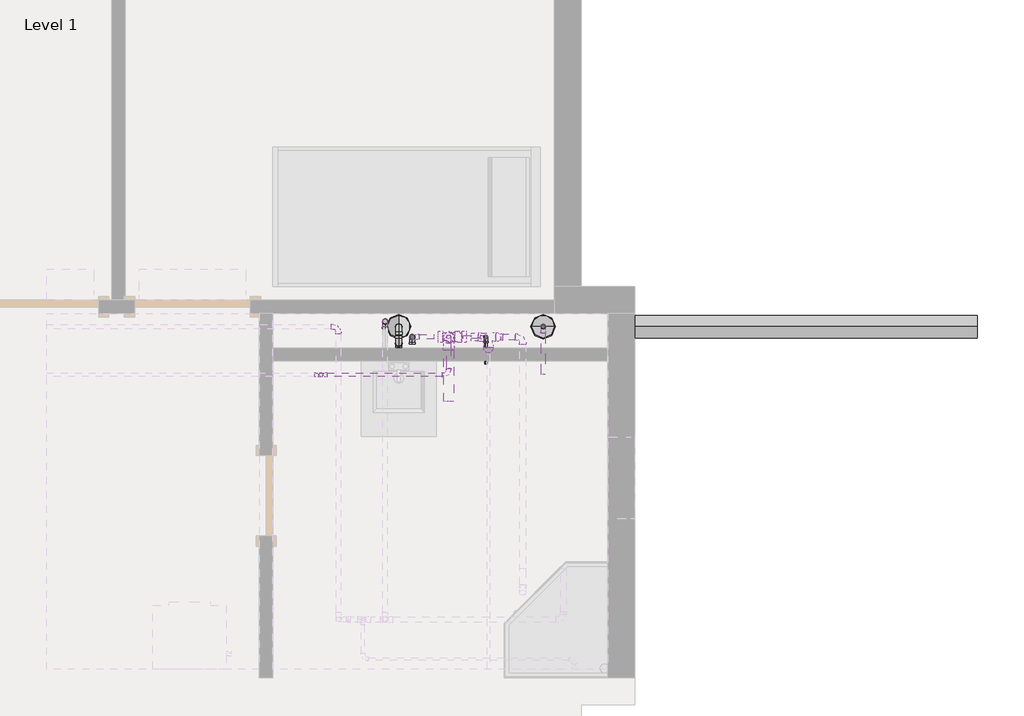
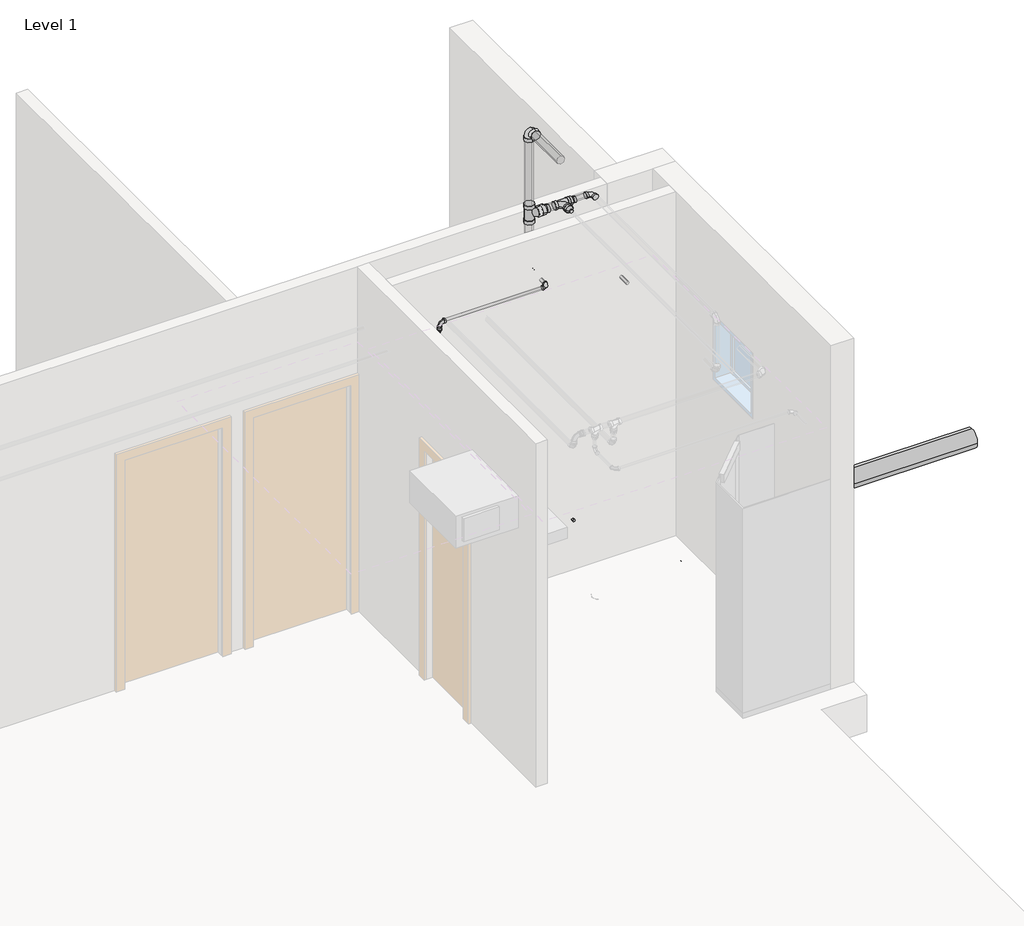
# One storey, part 5 of 5: 36 pipe fittings, 27 pipe segments.
"""IFC4 building model written with IfcOpenShell, lengths in millimetres."""

from ifc_helpers import new_model, si_unit, point, frame, frame_2d, origin, place, context, project, spatial, circle_curve, trimmed, segment, composite_curve, outline, extrude, transform, mapped, element, save
from components import m_bend_pvc_sch_40_dwv_standard_48d77e49, m_bend_pvc_sch_40_dwv_standard_b153bf5a, m_bend_pvc_sch_40_dwv_standard_42e46e6b, m_bend_pvc_sch_40_dwv_standard_be9000f5, m_bend_pvc_sch_40_dwv_standard_1fdc8943, m_cross_generic_standard_eee3fceb, m_reducer_pvc_sch_40_dwv_standard_1f0c87c7, m_reducer_pvc_sch_40_dwv_standard_bf74e410, m_reducer_pvc_sch_40_dwv_standard_9ac772d5, m_reducer_pvc_sch_40_dwv_standard_4bae48e9, m_reducer_pvc_sch_40_dwv_standard_7f1ca4eb, m_reducer_pvc_sch_40_dwv_standard_e16815b3, m_reducer_pvc_sch_40_dwv_standard_84eef19e, m_reducer_pvc_sch_40_dwv_standard_95f1beeb, m_reducer_pvc_sch_40_dwv_standard_ec3ee1f1, m_reducer_pvc_sch_40_dwv_standard_7a4573f1, m_reducer_pvc_sch_40_dwv_standard_9cc5e542, m_tee_sanitary_pvc_sch_40_dwv_standard_f4612a07, m_tee_sanitary_pvc_sch_40_dwv_standard_2f7d5431, m_tee_sanitary_pvc_sch_40_dwv_standard_c1a820f3, m_tee_sanitary_pvc_sch_40_dwv_standard_5d736629

model = new_model("IFC4")

# Units and contexts
model_context = context("Model", 3, world=origin())
ifc_project = project(units=[si_unit("LENGTHUNIT", "METRE", prefix="MILLI")], contexts=[model_context])

# Site, building, storey
site = spatial("IfcSite", under=ifc_project)
building = spatial("IfcBuilding", under=site)
storey = spatial("IfcBuildingStorey", under=building, Name="Level 1", Elevation=0.0)

# Pipe fittings
placement = place(None, origin())
m_bend_pvc_sch_40_dwv_standard_shape = m_bend_pvc_sch_40_dwv_standard_48d77e49(model_context)
element("IfcPipeFitting", 1, ObjectType="M_Bend - PVC - Sch 40 - DWV : Standard", at=placement, inside=storey, context=model_context, shape_type="MappedRepresentation", body=[
    mapped(m_bend_pvc_sch_40_dwv_standard_shape, transform((-8198.1623896, 568.6925672, 3300.0), x_axis=(0.0, 1.0, 0.0), y_axis=(-1.0, 0.0, 0.0), z_axis=(0.0, 0.0, 1.0))),
])
element("IfcPipeFitting", 2, ObjectType="M_Bend - PVC - Sch 40 - DWV : Standard", at=placement, inside=storey, context=model_context, shape_type="MappedRepresentation", body=[
    mapped(m_bend_pvc_sch_40_dwv_standard_shape, transform((-9123.7942941, 260.9749846, 480.2043266), x_axis=(0.0, 0.0, -1.0), y_axis=(0.0, 1.0, 0.0), z_axis=(1.0, 0.0, 0.0))),
])
element("IfcPipeFitting", 3, ObjectType="M_Bend - PVC - Sch 40 - DWV : Standard", at=placement, inside=storey, context=model_context, shape_type="MappedRepresentation", body=[
    mapped(m_bend_pvc_sch_40_dwv_standard_shape, transform((-9123.7942941, 520.9749846, 480.2043266), x_axis=(0.0, 1.0, 0.0), y_axis=(0.0, 0.0, 1.0), z_axis=(1.0, 0.0, 0.0))),
])
element("IfcPipeFitting", 4, ObjectType="M_Bend - PVC - Sch 40 - DWV : Standard", at=placement, inside=storey, context=model_context, shape_type="MappedRepresentation", body=[
    mapped(m_bend_pvc_sch_40_dwv_standard_shape, transform((-9123.7942941, 520.9749846, 676.629035), x_axis=(0.0, 0.0, 1.0), y_axis=(0.0, 1.0, 0.0), z_axis=(-1.0, 0.0, 0.0))),
])
element("IfcPipeFitting", 5, ObjectType="M_Bend - PVC - Sch 40 - DWV : Standard", at=placement, inside=storey, context=model_context, shape_type="MappedRepresentation", body=[
    mapped(m_bend_pvc_sch_40_dwv_standard_shape, transform((-9123.7942941, 645.9722675, 676.629035), x_axis=(0.0, 1.0, 0.0), y_axis=(0.0, 0.0, -1.0), z_axis=(-1.0, 0.0, 0.0))),
])
m_bend_pvc_sch_40_dwv_standard_2_shape = m_bend_pvc_sch_40_dwv_standard_b153bf5a(model_context)
element("IfcPipeFitting", 6, ObjectType="M_Bend - PVC - Sch 40 - DWV : Standard", at=placement, inside=storey, context=model_context, shape_type="MappedRepresentation", body=[
    mapped(m_bend_pvc_sch_40_dwv_standard_2_shape, transform((-9225.3942941, 684.5675672, 814.2), x_axis=(0.0, 1.0, 0.0), y_axis=(0.0, 0.0, 1.0), z_axis=(1.0, 0.0, 0.0))),
])
element("IfcPipeFitting", 7, ObjectType="M_Bend - PVC - Sch 40 - DWV : Standard", at=placement, inside=storey, context=model_context, shape_type="MappedRepresentation", body=[
    mapped(m_bend_pvc_sch_40_dwv_standard_2_shape, transform((-9022.1942941, 568.6925672, 814.2), x_axis=(0.0, 1.0, 0.0), y_axis=(0.0, 0.0, 1.0), z_axis=(1.0, 0.0, 0.0))),
])
element("IfcPipeFitting", 8, ObjectType="M_Bend - PVC - Sch 40 - DWV : Standard", at=placement, inside=storey, context=model_context, shape_type="MappedRepresentation", body=[
    mapped(m_bend_pvc_sch_40_dwv_standard_2_shape, transform((-9225.3942941, 684.5675672, 2600.0), x_axis=(0.0, 0.0, 1.0), y_axis=(0.0, -1.0, 0.0), z_axis=(1.0, 0.0, 0.0))),
])
element("IfcPipeFitting", 9, ObjectType="M_Bend - PVC - Sch 40 - DWV : Standard", at=placement, inside=storey, context=model_context, shape_type="MappedRepresentation", body=[
    mapped(m_bend_pvc_sch_40_dwv_standard_2_shape, transform((-9572.9123897, 644.5675672, 2690.0), x_axis=(0.0, 1.0, 0.0), y_axis=(-0.9999999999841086, 0.0, 5.637633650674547e-06), z_axis=(5.637633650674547e-06, 0.0, 0.9999999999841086))),
])
element("IfcPipeFitting", 10, ObjectType="M_Bend - PVC - Sch 40 - DWV : Standard", at=placement, inside=storey, context=model_context, shape_type="MappedRepresentation", body=[
    mapped(m_bend_pvc_sch_40_dwv_standard_2_shape, transform((-9022.1942941, 568.6925672, 3000.0), x_axis=(0.0, 0.0, 1.0), y_axis=(1.0, 0.0, 0.0), z_axis=(0.0, 1.0, 0.0))),
])
m_bend_pvc_sch_40_dwv_standard_3_shape = m_bend_pvc_sch_40_dwv_standard_42e46e6b(model_context)
element("IfcPipeFitting", 11, ObjectType="M_Bend - PVC - Sch 40 - DWV : Standard", at=placement, inside=storey, context=model_context, shape_type="MappedRepresentation", body=[
    mapped(m_bend_pvc_sch_40_dwv_standard_3_shape, transform((-8472.9655423, 568.6925672, 469.9432082), x_axis=(0.0, 1.0, 0.0), y_axis=(0.0, 0.0, 1.0), z_axis=(1.0, 0.0, 0.0))),
])
element("IfcPipeFitting", 12, ObjectType="M_Bend - PVC - Sch 40 - DWV : Standard", at=placement, inside=storey, context=model_context, shape_type="MappedRepresentation", body=[
    mapped(m_bend_pvc_sch_40_dwv_standard_3_shape, transform((-8472.9655423, 568.6925672, 3000.0), x_axis=(0.0, 0.0, 1.0), y_axis=(-1.0, 0.0, 0.0), z_axis=(0.0, -1.0, 0.0))),
])
m_bend_pvc_sch_40_dwv_standard_4_shape = m_bend_pvc_sch_40_dwv_standard_be9000f5(model_context)
element("IfcPipeFitting", 13, ObjectType="M_Bend - PVC - Sch 40 - DWV : Standard", at=placement, inside=storey, context=model_context, shape_type="MappedRepresentation", body=[
    mapped(m_bend_pvc_sch_40_dwv_standard_4_shape, transform((-8045.7623896, 645.9722675, 2580.0), x_axis=(0.0, 0.0, 1.0), y_axis=(0.0, -1.0, 0.0), z_axis=(1.0, 0.0, 0.0))),
])
element("IfcPipeFitting", 14, ObjectType="M_Bend - PVC - Sch 40 - DWV : Standard", at=placement, inside=storey, context=model_context, shape_type="MappedRepresentation", body=[
    mapped(m_bend_pvc_sch_40_dwv_standard_4_shape, transform((-8750.7891067, 568.6925672, 2800.0), x_axis=(0.0, 1.0, 0.0), y_axis=(0.0, 0.0, 1.0), z_axis=(1.0, 0.0, 0.0))),
])
element("IfcPipeFitting", 15, ObjectType="M_Bend - PVC - Sch 40 - DWV : Standard", at=placement, inside=storey, context=model_context, shape_type="MappedRepresentation", body=[
    mapped(m_bend_pvc_sch_40_dwv_standard_4_shape, transform((-9704.3444209, 286.2683858, 2690.0), x_axis=(1.0, 0.0, 0.0), y_axis=(0.0, 0.0, 1.0), z_axis=(0.0, -1.0, 0.0))),
])
element("IfcPipeFitting", 16, ObjectType="M_Bend - PVC - Sch 40 - DWV : Standard", at=placement, inside=storey, context=model_context, shape_type="MappedRepresentation", body=[
    mapped(m_bend_pvc_sch_40_dwv_standard_4_shape, transform((-8750.7891067, 286.2683858, 2800.0), x_axis=(1.0, 0.0, 0.0), y_axis=(0.0, 1.0, 0.0), z_axis=(0.0, 0.0, 1.0))),
])
element("IfcPipeFitting", 17, ObjectType="M_Bend - PVC - Sch 40 - DWV : Standard", at=placement, inside=storey, context=model_context, shape_type="MappedRepresentation", body=[
    mapped(m_bend_pvc_sch_40_dwv_standard_4_shape, transform((-9704.3444209, 286.2683858, 2800.0), x_axis=(0.0, 0.0, 1.0), y_axis=(1.0, 0.0, 0.0), z_axis=(0.0, 1.0, 0.0))),
])
m_bend_pvc_sch_40_dwv_standard_5_shape = m_bend_pvc_sch_40_dwv_standard_1fdc8943(model_context)
element("IfcPipeFitting", 18, ObjectType="M_Bend - PVC - Sch 40 - DWV : Standard", at=placement, inside=storey, context=model_context, shape_type="MappedRepresentation", body=[
    mapped(m_bend_pvc_sch_40_dwv_standard_5_shape, transform((-8750.7891067, 568.6925672, 4093.3), x_axis=(0.0, 1.0, 0.0), y_axis=(0.0, 0.0, -1.0), z_axis=(-1.0, 0.0, 0.0))),
])
m_cross_generic_standard_shape = m_cross_generic_standard_eee3fceb(model_context)
element("IfcPipeFitting", 19, ObjectType="M_Cross - Generic : Standard", at=placement, inside=storey, context=model_context, shape_type="MappedRepresentation", body=[
    mapped(m_cross_generic_standard_shape, transform((-8750.7891067, 568.6925672, 3000.0), x_axis=(0.0, 0.0, 1.0), y_axis=(-1.0, 0.0, 0.0), z_axis=(0.0, -1.0, 0.0))),
])
m_reducer_pvc_sch_40_dwv_standard_shape = m_reducer_pvc_sch_40_dwv_standard_1f0c87c7(model_context)
element("IfcPipeFitting", 20, ObjectType="M_Reducer - PVC - Sch 40 - DWV : Standard", at=placement, inside=storey, context=model_context, shape_type="MappedRepresentation", body=[
    mapped(m_reducer_pvc_sch_40_dwv_standard_shape, transform((-8472.9123896, 442.7722675, -205.0), x_axis=(0.0, -1.0, 0.0), y_axis=(1.0, 0.0, 0.0), z_axis=(0.0, 0.0, 1.0))),
])
m_reducer_pvc_sch_40_dwv_standard_2_shape = m_reducer_pvc_sch_40_dwv_standard_bf74e410(model_context)
element("IfcPipeFitting", 21, ObjectType="M_Reducer - PVC - Sch 40 - DWV : Standard", at=placement, inside=storey, context=model_context, shape_type="MappedRepresentation", body=[
    mapped(m_reducer_pvc_sch_40_dwv_standard_2_shape, transform((-9123.7942941, 645.9722675, 103.3624725), x_axis=(0.0, 0.0, 1.0), y_axis=(0.0, -1.0, 0.0), z_axis=(1.0, 0.0, 0.0))),
])
m_reducer_pvc_sch_40_dwv_standard_3_shape = m_reducer_pvc_sch_40_dwv_standard_9ac772d5(model_context)
element("IfcPipeFitting", 22, ObjectType="M_Reducer - PVC - Sch 40 - DWV : Standard", at=placement, inside=storey, context=model_context, shape_type="MappedRepresentation", body=[
    mapped(m_reducer_pvc_sch_40_dwv_standard_3_shape, transform((-8045.7623896, 645.9722675, -2.1497587), x_axis=(0.0, 0.0, 1.0), y_axis=(1.0, 0.0, 0.0), z_axis=(0.0, 1.0, 0.0))),
])
m_reducer_pvc_sch_40_dwv_standard_4_shape = m_reducer_pvc_sch_40_dwv_standard_4bae48e9(model_context)
element("IfcPipeFitting", 23, ObjectType="M_Reducer - PVC - Sch 40 - DWV : Standard", at=placement, inside=storey, context=model_context, shape_type="MappedRepresentation", body=[
    mapped(m_reducer_pvc_sch_40_dwv_standard_4_shape, transform((-7589.6865833, 442.7722675, -206.1051643), x_axis=(0.0, -1.0, 0.0), y_axis=(0.9999989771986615, 0.0, -0.0014302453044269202), z_axis=(0.0014302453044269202, 0.0, 0.9999989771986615))),
])
m_reducer_pvc_sch_40_dwv_standard_5_shape = m_reducer_pvc_sch_40_dwv_standard_7f1ca4eb(model_context)
element("IfcPipeFitting", 24, ObjectType="M_Reducer - PVC - Sch 40 - DWV : Standard", at=placement, inside=storey, context=model_context, shape_type="MappedRepresentation", body=[
    mapped(m_reducer_pvc_sch_40_dwv_standard_5_shape, transform((-8399.7233271, 568.6925672, 3300.0), x_axis=(1.0, 0.0, 0.0), y_axis=(0.0, 1.0, 0.0), z_axis=(0.0, 0.0, 1.0))),
])
m_reducer_pvc_sch_40_dwv_standard_6_shape = m_reducer_pvc_sch_40_dwv_standard_e16815b3(model_context)
element("IfcPipeFitting", 25, ObjectType="M_Reducer - PVC - Sch 40 - DWV : Standard", at=placement, inside=storey, context=model_context, shape_type="MappedRepresentation", body=[
    mapped(m_reducer_pvc_sch_40_dwv_standard_6_shape, transform((-8453.6983271, 490.8923672, 3300.0), x_axis=(0.0, -1.0, 0.0), y_axis=(1.0, 0.0, 0.0), z_axis=(0.0, 0.0, 1.0))),
])
m_reducer_pvc_sch_40_dwv_standard_7_shape = m_reducer_pvc_sch_40_dwv_standard_84eef19e(model_context)
element("IfcPipeFitting", 26, ObjectType="M_Reducer - PVC - Sch 40 - DWV : Standard", at=placement, inside=storey, context=model_context, shape_type="MappedRepresentation", body=[
    mapped(m_reducer_pvc_sch_40_dwv_standard_7_shape, transform((-8651.7750442, 568.6925672, 3300.0), x_axis=(1.0, 0.0, 0.0), y_axis=(0.0, 1.0, 0.0), z_axis=(0.0, 0.0, 1.0))),
])
m_reducer_pvc_sch_40_dwv_standard_8_shape = m_reducer_pvc_sch_40_dwv_standard_95f1beeb(model_context)
element("IfcPipeFitting", 27, ObjectType="M_Reducer - PVC - Sch 40 - DWV : Standard", at=placement, inside=storey, context=model_context, shape_type="MappedRepresentation", body=[
    mapped(m_reducer_pvc_sch_40_dwv_standard_8_shape, transform((-8750.7891067, 568.6925672, 2953.9625), x_axis=(0.0, 0.0, -1.0), y_axis=(0.0, -1.0, 0.0), z_axis=(-1.0, 0.0, 0.0))),
])
m_reducer_pvc_sch_40_dwv_standard_9_shape = m_reducer_pvc_sch_40_dwv_standard_ec3ee1f1(model_context)
element("IfcPipeFitting", 28, ObjectType="M_Reducer - PVC - Sch 40 - DWV : Standard", at=placement, inside=storey, context=model_context, shape_type="MappedRepresentation", body=[
    mapped(m_reducer_pvc_sch_40_dwv_standard_9_shape, transform((-8704.7516067, 568.6925672, 3000.0), x_axis=(1.0, 0.0, 0.0), y_axis=(0.0, 1.0, 0.0), z_axis=(0.0, 0.0, 1.0))),
])
m_reducer_pvc_sch_40_dwv_standard_10_shape = m_reducer_pvc_sch_40_dwv_standard_7a4573f1(model_context)
element("IfcPipeFitting", 29, ObjectType="M_Reducer - PVC - Sch 40 - DWV : Standard", at=placement, inside=storey, context=model_context, shape_type="MappedRepresentation", body=[
    mapped(m_reducer_pvc_sch_40_dwv_standard_10_shape, transform((-8796.8266067, 568.6925672, 3000.0), x_axis=(-1.0, 0.0, 0.0), y_axis=(0.0, -1.0, 0.0), z_axis=(0.0, 0.0, 1.0))),
])
m_reducer_pvc_sch_40_dwv_standard_11_shape = m_reducer_pvc_sch_40_dwv_standard_9cc5e542(model_context)
element("IfcPipeFitting", 30, ObjectType="M_Reducer - PVC - Sch 40 - DWV : Standard", at=placement, inside=storey, context=model_context, shape_type="MappedRepresentation", body=[
    mapped(m_reducer_pvc_sch_40_dwv_standard_11_shape, transform((-9288.8942941, 645.9722675, -205.1886237), x_axis=(-1.0, 0.0, 0.0), y_axis=(0.0, -1.0, 0.0), z_axis=(0.0, 0.0, 1.0))),
])
m_tee_sanitary_pvc_sch_40_dwv_standard_shape = m_tee_sanitary_pvc_sch_40_dwv_standard_f4612a07(model_context)
element("IfcPipeFitting", 31, ObjectType="M_Tee Sanitary - PVC - Sch 40 - DWV : Standard", at=placement, inside=storey, context=model_context, shape_type="MappedRepresentation", body=[
    mapped(m_tee_sanitary_pvc_sch_40_dwv_standard_shape, transform((-8472.9125241, 645.9722675, -205.1886237), x_axis=(-1.0, 0.0, 0.0), y_axis=(0.0, 1.0, 0.0), z_axis=(0.0, 0.0, -1.0))),
])
element("IfcPipeFitting", 32, ObjectType="M_Tee Sanitary - PVC - Sch 40 - DWV : Standard", at=placement, inside=storey, context=model_context, shape_type="MappedRepresentation", body=[
    mapped(m_tee_sanitary_pvc_sch_40_dwv_standard_shape, transform((-7589.6865833, 645.9722675, -206.1051643), x_axis=(-0.9999989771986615, 0.0, 0.0014302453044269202), y_axis=(0.0, 1.0, 0.0), z_axis=(-0.0014302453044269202, 0.0, -0.9999989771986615))),
])
element("IfcPipeFitting", 33, ObjectType="M_Tee Sanitary - PVC - Sch 40 - DWV : Standard", at=placement, inside=storey, context=model_context, shape_type="MappedRepresentation", body=[
    mapped(m_tee_sanitary_pvc_sch_40_dwv_standard_shape, transform((-9123.7942941, 645.9722675, -205.1886237), x_axis=(-1.0, 0.0, 0.0), y_axis=(0.0, 0.0, -1.0), z_axis=(0.0, -1.0, 0.0))),
])
m_tee_sanitary_pvc_sch_40_dwv_standard_2_shape = m_tee_sanitary_pvc_sch_40_dwv_standard_2f7d5431(model_context)
element("IfcPipeFitting", 34, ObjectType="M_Tee Sanitary - PVC - Sch 40 - DWV : Standard", at=placement, inside=storey, context=model_context, shape_type="MappedRepresentation", body=[
    mapped(m_tee_sanitary_pvc_sch_40_dwv_standard_2_shape, transform((-8750.7891067, 568.6925672, 3300.0), x_axis=(0.0, 0.0, -1.0), y_axis=(-1.0, 0.0, 0.0), z_axis=(0.0, 1.0, 0.0))),
])
m_tee_sanitary_pvc_sch_40_dwv_standard_3_shape = m_tee_sanitary_pvc_sch_40_dwv_standard_c1a820f3(model_context)
element("IfcPipeFitting", 35, ObjectType="M_Tee Sanitary - PVC - Sch 40 - DWV : Standard", at=placement, inside=storey, context=model_context, shape_type="MappedRepresentation", body=[
    mapped(m_tee_sanitary_pvc_sch_40_dwv_standard_3_shape, transform((-8045.7625241, 645.9722675, -205.4397023), x_axis=(-0.9999988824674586, 0.0, 0.0014950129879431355), y_axis=(-0.0014950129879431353, 0.0, -0.9999988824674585), z_axis=(0.0, -0.9999999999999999, 0.0))),
])
m_tee_sanitary_pvc_sch_40_dwv_standard_4_shape = m_tee_sanitary_pvc_sch_40_dwv_standard_5d736629(model_context)
element("IfcPipeFitting", 36, ObjectType="M_Tee Sanitary - PVC - Sch 40 - DWV : Standard", at=placement, inside=storey, context=model_context, shape_type="MappedRepresentation", body=[
    mapped(m_tee_sanitary_pvc_sch_40_dwv_standard_4_shape, transform((-8453.6983271, 568.6925672, 3300.0), x_axis=(1.0, 0.0, 0.0), y_axis=(0.0, 1.0, 0.0), z_axis=(0.0, 0.0, 1.0))),
])

# Pipe segments
element("IfcPipeSegment", 37, ObjectType="PVC - DWV", at=placement, inside=storey, context=model_context, shape_type="SweptSolid", body=[
    extrude(outline(composite_curve([segment(trimmed(circle_curve(frame_2d((-9022.1942941, 568.6925672)), 16.7005), [point((-9038.8947941, 568.6925672))], [point((-9022.1942941, 585.3930672))], False, "CARTESIAN"), True, "CONTINUOUS"), segment(trimmed(circle_curve(frame_2d((-9022.1942941, 568.6925672)), 16.7005), [point((-9022.1942941, 585.3930672))], [point((-9005.4937941, 568.6925672))], False, "CARTESIAN"), True, "CONTINUOUS"), segment(trimmed(circle_curve(frame_2d((-9022.1942941, 568.6925672)), 16.7005), [point((-9005.4937941, 568.6925672))], [point((-9022.1942941, 551.9920672))], False, "CARTESIAN"), True, "CONTINUOUS"), segment(trimmed(circle_curve(frame_2d((-9022.1942941, 568.6925672)), 16.7005), [point((-9022.1942941, 551.9920672))], [point((-9038.8947941, 568.6925672))], False, "CARTESIAN"), True, "CONTINUOUS")], self_intersect=False)), frame((0.0, 0.0, 866.8140625), z_axis=(0.0, 0.0, 1.0), x_axis=(1.0, 0.0, 0.0)), (0.0, 0.0, 1.0), 2080.571875),
])
element("IfcPipeSegment", 38, ObjectType="PVC - DWV", at=placement, inside=storey, context=model_context, shape_type="SweptSolid", body=[
    extrude(outline(composite_curve([segment(trimmed(circle_curve(frame_2d((469.9432082, -8472.9655423)), 10.668), [point((469.9432082, -8462.2975423))], [point((480.6112082, -8472.9655423))], False, "CARTESIAN"), True, "CONTINUOUS"), segment(trimmed(circle_curve(frame_2d((469.9432082, -8472.9655423)), 10.668), [point((480.6112082, -8472.9655423))], [point((469.9432082, -8483.6335423))], False, "CARTESIAN"), True, "CONTINUOUS"), segment(trimmed(circle_curve(frame_2d((469.9432082, -8472.9655423)), 10.668), [point((469.9432082, -8483.6335423))], [point((459.2752082, -8472.9655423))], False, "CARTESIAN"), True, "CONTINUOUS"), segment(trimmed(circle_curve(frame_2d((469.9432082, -8472.9655423)), 10.668), [point((459.2752082, -8472.9655423))], [point((469.9432082, -8462.2975423))], False, "CARTESIAN"), True, "CONTINUOUS")], self_intersect=False)), frame((0.0, 368.6925672, 0.0), z_axis=(0.0, 1.0, 0.0), x_axis=(0.0, 0.0, 1.0)), (0.0, 0.0, 1.0), 158.9859375),
])
element("IfcPipeSegment", 39, ObjectType="PVC - DWV", at=placement, inside=storey, context=model_context, shape_type="SweptSolid", body=[
    extrude(outline(composite_curve([segment(trimmed(circle_curve(frame_2d((-8472.9655423, 568.6925672)), 10.668), [point((-8483.6335423, 568.6925672))], [point((-8472.9655423, 579.3605672))], False, "CARTESIAN"), True, "CONTINUOUS"), segment(trimmed(circle_curve(frame_2d((-8472.9655423, 568.6925672)), 10.668), [point((-8472.9655423, 579.3605672))], [point((-8462.2975423, 568.6925672))], False, "CARTESIAN"), True, "CONTINUOUS"), segment(trimmed(circle_curve(frame_2d((-8472.9655423, 568.6925672)), 10.668), [point((-8462.2975423, 568.6925672))], [point((-8472.9655423, 558.0245672))], False, "CARTESIAN"), True, "CONTINUOUS"), segment(trimmed(circle_curve(frame_2d((-8472.9655423, 568.6925672)), 10.668), [point((-8472.9655423, 558.0245672))], [point((-8483.6335423, 568.6925672))], False, "CARTESIAN"), True, "CONTINUOUS")], self_intersect=False)), frame((0.0, 0.0, 510.9572707), z_axis=(0.0, 0.0, 1.0), x_axis=(1.0, 0.0, 0.0)), (0.0, 0.0, 1.0), 2448.0286668),
])
element("IfcPipeSegment", 40, ObjectType="PVC - DWV", at=placement, inside=storey, context=model_context, shape_type="SweptSolid", body=[
    extrude(outline(composite_curve([segment(trimmed(circle_curve(frame_2d((568.6925672, 3000.0)), 10.668), [point((579.3605672, 3000.0))], [point((568.6925672, 2989.332))], False, "CARTESIAN"), True, "CONTINUOUS"), segment(trimmed(circle_curve(frame_2d((568.6925672, 3000.0)), 10.668), [point((568.6925672, 2989.332))], [point((558.0245672, 3000.0))], False, "CARTESIAN"), True, "CONTINUOUS"), segment(trimmed(circle_curve(frame_2d((568.6925672, 3000.0)), 10.668), [point((558.0245672, 3000.0))], [point((568.6925672, 3010.668))], False, "CARTESIAN"), True, "CONTINUOUS"), segment(trimmed(circle_curve(frame_2d((568.6925672, 3000.0)), 10.668), [point((568.6925672, 3010.668))], [point((579.3605672, 3000.0))], False, "CARTESIAN"), True, "CONTINUOUS")], self_intersect=False)), frame((-8640.5555129, 0.0, 0.0), z_axis=(1.0, 0.0, 0.0), x_axis=(0.0, 1.0, 0.0)), (0.0, 0.0, 1.0), 126.5759081),
])
element("IfcPipeSegment", 41, ObjectType="PVC - DWV", at=placement, inside=storey, context=model_context, shape_type="SweptSolid", body=[
    extrude(outline(composite_curve([segment(trimmed(circle_curve(frame_2d((-205.0, -8472.9123896)), 57.15), [point((-205.0, -8415.7623896))], [point((-147.85, -8472.9123896))], False, "CARTESIAN"), True, "CONTINUOUS"), segment(trimmed(circle_curve(frame_2d((-205.0, -8472.9123896)), 57.15), [point((-147.85, -8472.9123896))], [point((-205.0, -8530.0623896))], False, "CARTESIAN"), True, "CONTINUOUS"), segment(trimmed(circle_curve(frame_2d((-205.0, -8472.9123896)), 57.15), [point((-205.0, -8530.0623896))], [point((-262.15, -8472.9123896))], False, "CARTESIAN"), True, "CONTINUOUS"), segment(trimmed(circle_curve(frame_2d((-205.0, -8472.9123896)), 57.15), [point((-262.15, -8472.9123896))], [point((-205.0, -8415.7623896))], False, "CARTESIAN"), True, "CONTINUOUS")], self_intersect=False)), frame((0.0, 138.9019422, 0.0), z_axis=(0.0, 1.0, 0.0), x_axis=(0.0, 0.0, 1.0)), (0.0, 0.0, 1.0), 138.7703253),
])
element("IfcPipeSegment", 42, ObjectType="PVC - DWV", at=placement, inside=storey, context=model_context, shape_type="SweptSolid", body=[
    extrude(outline(composite_curve([segment(trimmed(circle_curve(frame_2d((-9123.7942941, 645.9722675)), 84.1375), [point((-9207.9317941, 645.9722675))], [point((-9123.7942941, 730.1097675))], False, "CARTESIAN"), True, "CONTINUOUS"), segment(trimmed(circle_curve(frame_2d((-9123.7942941, 645.9722675)), 84.1375), [point((-9123.7942941, 730.1097675))], [point((-9039.6567941, 645.9722675))], False, "CARTESIAN"), True, "CONTINUOUS"), segment(trimmed(circle_curve(frame_2d((-9123.7942941, 645.9722675)), 84.1375), [point((-9039.6567941, 645.9722675))], [point((-9123.7942941, 561.8347675))], False, "CARTESIAN"), True, "CONTINUOUS"), segment(trimmed(circle_curve(frame_2d((-9123.7942941, 645.9722675)), 84.1375), [point((-9123.7942941, 561.8347675))], [point((-9207.9317941, 645.9722675))], False, "CARTESIAN"), True, "CONTINUOUS")], self_intersect=False)), frame((0.0, 0.0, -1.9886237), z_axis=(0.0, 0.0, 1.0), x_axis=(1.0, 0.0, 0.0)), (0.0, 0.0, 1.0), 105.3510962),
])
element("IfcPipeSegment", 43, ObjectType="PVC - DWV", at=placement, inside=storey, context=model_context, shape_type="SweptSolid", body=[
    extrude(outline(composite_curve([segment(trimmed(circle_curve(frame_2d((645.9722675, -205.1886237)), 84.1375), [point((730.1097675, -205.1886237))], [point((645.9722675, -289.3261237))], False, "CARTESIAN"), True, "CONTINUOUS"), segment(trimmed(circle_curve(frame_2d((645.9722675, -205.1886237)), 84.1375), [point((645.9722675, -289.3261237))], [point((561.8347675, -205.1886237))], False, "CARTESIAN"), True, "CONTINUOUS"), segment(trimmed(circle_curve(frame_2d((645.9722675, -205.1886237)), 84.1375), [point((561.8347675, -205.1886237))], [point((645.9722675, -121.0511237))], False, "CARTESIAN"), True, "CONTINUOUS"), segment(trimmed(circle_curve(frame_2d((645.9722675, -205.1886237)), 84.1375), [point((645.9722675, -121.0511237))], [point((730.1097675, -205.1886237))], False, "CARTESIAN"), True, "CONTINUOUS")], self_intersect=False)), frame((-8920.5942941, 0.0, 0.0), z_axis=(1.0, 0.0, 0.0), x_axis=(0.0, 1.0, 0.0)), (0.0, 0.0, 1.0), 282.58177),
])
element("IfcPipeSegment", 44, ObjectType="PVC - DWV", at=placement, inside=storey, context=model_context, shape_type="SweptSolid", body=[
    extrude(outline(composite_curve([segment(trimmed(circle_curve(frame_2d((2580.0, -8045.7623896)), 13.335), [point((2580.0, -8032.4273896))], [point((2593.335, -8045.7623896))], False, "CARTESIAN"), True, "CONTINUOUS"), segment(trimmed(circle_curve(frame_2d((2580.0, -8045.7623896)), 13.335), [point((2593.335, -8045.7623896))], [point((2580.0, -8059.0973896))], False, "CARTESIAN"), True, "CONTINUOUS"), segment(trimmed(circle_curve(frame_2d((2580.0, -8045.7623896)), 13.335), [point((2580.0, -8059.0973896))], [point((2566.665, -8045.7623896))], False, "CARTESIAN"), True, "CONTINUOUS"), segment(trimmed(circle_curve(frame_2d((2580.0, -8045.7623896)), 13.335), [point((2566.665, -8045.7623896))], [point((2580.0, -8032.4273896))], False, "CARTESIAN"), True, "CONTINUOUS")], self_intersect=False)), frame((0.0, 287.9749846, 0.0), z_axis=(0.0, 1.0, 0.0), x_axis=(0.0, 0.0, 1.0)), (0.0, 0.0, 1.0), 311.1832204),
])
element("IfcPipeSegment", 45, ObjectType="PVC - DWV", at=placement, inside=storey, context=model_context, shape_type="SweptSolid", body=[
    extrude(outline(composite_curve([segment(trimmed(circle_curve(frame_2d((-8045.7623896, 645.9722675)), 13.335), [point((-8059.0973896, 645.9722675))], [point((-8045.7623896, 659.3072675))], False, "CARTESIAN"), True, "CONTINUOUS"), segment(trimmed(circle_curve(frame_2d((-8045.7623896, 645.9722675)), 13.335), [point((-8045.7623896, 659.3072675))], [point((-8032.4273896, 645.9722675))], False, "CARTESIAN"), True, "CONTINUOUS"), segment(trimmed(circle_curve(frame_2d((-8045.7623896, 645.9722675)), 13.335), [point((-8032.4273896, 645.9722675))], [point((-8045.7623896, 632.6372675))], False, "CARTESIAN"), True, "CONTINUOUS"), segment(trimmed(circle_curve(frame_2d((-8045.7623896, 645.9722675)), 13.335), [point((-8045.7623896, 632.6372675))], [point((-8059.0973896, 645.9722675))], False, "CARTESIAN"), True, "CONTINUOUS")], self_intersect=False)), frame((0.0, 0.0, 143.4463351), z_axis=(0.0, 0.0, 1.0), x_axis=(1.0, 0.0, 0.0)), (0.0, 0.0, 1.0), 2389.7396024),
])
element("IfcPipeSegment", 46, ObjectType="PVC - DWV", at=placement, inside=storey, context=model_context, shape_type="SweptSolid", body=[
    extrude(outline(composite_curve([segment(trimmed(circle_curve(frame_2d((645.9722675, -205.1886237)), 84.1375), [point((561.8347675, -205.1886237))], [point((645.9722675, -121.0511237))], False, "CARTESIAN"), True, "CONTINUOUS"), segment(trimmed(circle_curve(frame_2d((645.9722675, -205.1886237)), 84.1375), [point((645.9722675, -121.0511237))], [point((730.1097675, -205.1886237))], False, "CARTESIAN"), True, "CONTINUOUS"), segment(trimmed(circle_curve(frame_2d((645.9722675, -205.1886237)), 84.1375), [point((730.1097675, -205.1886237))], [point((645.9722675, -289.3261237))], False, "CARTESIAN"), True, "CONTINUOUS"), segment(trimmed(circle_curve(frame_2d((645.9722675, -205.1886237)), 84.1375), [point((645.9722675, -289.3261237))], [point((561.8347675, -205.1886237))], False, "CARTESIAN"), True, "CONTINUOUS")], self_intersect=False)), frame((-8269.7125241, 0.0, 0.0), z_axis=(1.0, 0.0, 0.0), x_axis=(0.0, 1.0, 0.0)), (0.0, 0.0, 1.0), 56.0061233),
])
element("IfcPipeSegment", 47, ObjectType="PVC - DWV", at=placement, inside=storey, context=model_context, shape_type="SweptSolid", body=[
    extrude(outline(composite_curve([segment(trimmed(circle_curve(frame_2d((0.0, -84.1375001)), 84.1375), [point((-84.1375, -84.1375001))], [point((0.0, 0.0))], False, "CARTESIAN"), True, "CONTINUOUS"), segment(trimmed(circle_curve(frame_2d((0.0, -84.1375001)), 84.1375), [point((0.0, 0.0))], [point((84.1375, -84.1375001))], False, "CARTESIAN"), True, "CONTINUOUS"), segment(trimmed(circle_curve(frame_2d((0.0, -84.1375001)), 84.1375), [point((84.1375, -84.1375001))], [point((0.0, -168.275))], False, "CARTESIAN"), True, "CONTINUOUS"), segment(trimmed(circle_curve(frame_2d((0.0, -84.1375001)), 84.1375), [point((0.0, -168.275))], [point((-84.1375, -84.1375001))], False, "CARTESIAN"), True, "CONTINUOUS")], self_intersect=False)), frame((-4806.4443803, 645.9722675, -294.2234735), z_axis=(-0.9999989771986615, 0.0, 0.0014302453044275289), x_axis=(0.0, 1.0, 0.0)), (0.0, 0.0, 1.0), 2580.1653871),
])
element("IfcPipeSegment", 48, ObjectType="PVC - DWV", at=placement, inside=storey, context=model_context, shape_type="SweptSolid", body=[
    extrude(outline(composite_curve([segment(trimmed(circle_curve(frame_2d((0.0, -84.1375)), 84.1375), [point((-84.1375, -84.1375))], [point((0.0, 0.0))], False, "CARTESIAN"), True, "CONTINUOUS"), segment(trimmed(circle_curve(frame_2d((0.0, -84.1375)), 84.1375), [point((0.0, 0.0))], [point((84.1375, -84.1375))], False, "CARTESIAN"), True, "CONTINUOUS"), segment(trimmed(circle_curve(frame_2d((0.0, -84.1375)), 84.1375), [point((84.1375, -84.1375))], [point((0.0, -168.275))], False, "CARTESIAN"), True, "CONTINUOUS"), segment(trimmed(circle_curve(frame_2d((0.0, -84.1375)), 84.1375), [point((0.0, -168.275))], [point((-84.1375, -84.1375))], False, "CARTESIAN"), True, "CONTINUOUS")], self_intersect=False)), frame((-7754.9067517, 645.9722675, -290.0064447), z_axis=(-0.9999989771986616, 0.0, 0.0014302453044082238), x_axis=(0.0, 1.0, 0.0)), (0.0, 0.0, 1.0), 87.7764266),
])
element("IfcPipeSegment", 49, ObjectType="PVC - DWV", at=placement, inside=storey, context=model_context, shape_type="SweptSolid", body=[
    extrude(outline(composite_curve([segment(trimmed(circle_curve(frame_2d((286.2683858, 2800.0)), 13.335), [point((299.6033858, 2800.0))], [point((286.2683858, 2786.665))], False, "CARTESIAN"), True, "CONTINUOUS"), segment(trimmed(circle_curve(frame_2d((286.2683858, 2800.0)), 13.335), [point((286.2683858, 2786.665))], [point((272.9333858, 2800.0))], False, "CARTESIAN"), True, "CONTINUOUS"), segment(trimmed(circle_curve(frame_2d((286.2683858, 2800.0)), 13.335), [point((272.9333858, 2800.0))], [point((286.2683858, 2813.335))], False, "CARTESIAN"), True, "CONTINUOUS"), segment(trimmed(circle_curve(frame_2d((286.2683858, 2800.0)), 13.335), [point((286.2683858, 2813.335))], [point((299.6033858, 2800.0))], False, "CARTESIAN"), True, "CONTINUOUS")], self_intersect=False)), frame((-9657.5303584, 0.0, 0.0), z_axis=(1.0, 0.0, 0.0), x_axis=(0.0, 1.0, 0.0)), (0.0, 0.0, 1.0), 859.9271892),
])
element("IfcPipeSegment", 50, ObjectType="PVC - DWV", at=placement, inside=storey, context=model_context, shape_type="SweptSolid", body=[
    extrude(outline(composite_curve([segment(trimmed(circle_curve(frame_2d((568.6925672, 3000.0)), 16.7005), [point((551.9920672, 3000.0))], [point((568.6925672, 3016.7005))], False, "CARTESIAN"), True, "CONTINUOUS"), segment(trimmed(circle_curve(frame_2d((568.6925672, 3000.0)), 16.7005), [point((568.6925672, 3016.7005))], [point((585.3930672, 3000.0))], False, "CARTESIAN"), True, "CONTINUOUS"), segment(trimmed(circle_curve(frame_2d((568.6925672, 3000.0)), 16.7005), [point((585.3930672, 3000.0))], [point((568.6925672, 2983.2995))], False, "CARTESIAN"), True, "CONTINUOUS"), segment(trimmed(circle_curve(frame_2d((568.6925672, 3000.0)), 16.7005), [point((568.6925672, 2983.2995))], [point((551.9920672, 3000.0))], False, "CARTESIAN"), True, "CONTINUOUS")], self_intersect=False)), frame((-8969.5802316, 0.0, 0.0), z_axis=(1.0, 0.0, 0.0), x_axis=(0.0, 1.0, 0.0)), (0.0, 0.0, 1.0), 107.2575312),
])
element("IfcPipeSegment", 51, ObjectType="PVC - DWV", at=placement, inside=storey, context=model_context, shape_type="SweptSolid", body=[
    extrude(outline(composite_curve([segment(trimmed(circle_curve(frame_2d((2800.0, -8750.7891067)), 13.335), [point((2800.0, -8737.4541067))], [point((2813.335, -8750.7891067))], False, "CARTESIAN"), True, "CONTINUOUS"), segment(trimmed(circle_curve(frame_2d((2800.0, -8750.7891067)), 13.335), [point((2813.335, -8750.7891067))], [point((2800.0, -8764.1241067))], False, "CARTESIAN"), True, "CONTINUOUS"), segment(trimmed(circle_curve(frame_2d((2800.0, -8750.7891067)), 13.335), [point((2800.0, -8764.1241067))], [point((2786.665, -8750.7891067))], False, "CARTESIAN"), True, "CONTINUOUS"), segment(trimmed(circle_curve(frame_2d((2800.0, -8750.7891067)), 13.335), [point((2786.665, -8750.7891067))], [point((2800.0, -8737.4541067))], False, "CARTESIAN"), True, "CONTINUOUS")], self_intersect=False)), frame((0.0, 333.0824483, 0.0), z_axis=(0.0, 1.0, 0.0), x_axis=(0.0, 0.0, 1.0)), (0.0, 0.0, 1.0), 188.7960564),
])
element("IfcPipeSegment", 52, ObjectType="PVC - DWV", at=placement, inside=storey, context=model_context, shape_type="SweptSolid", body=[
    extrude(outline(composite_curve([segment(trimmed(circle_curve(frame_2d((-8750.7891067, 568.6925672)), 13.335), [point((-8764.1241067, 568.6925672))], [point((-8750.7891067, 582.0275672))], False, "CARTESIAN"), True, "CONTINUOUS"), segment(trimmed(circle_curve(frame_2d((-8750.7891067, 568.6925672)), 13.335), [point((-8750.7891067, 582.0275672))], [point((-8737.4541067, 568.6925672))], False, "CARTESIAN"), True, "CONTINUOUS"), segment(trimmed(circle_curve(frame_2d((-8750.7891067, 568.6925672)), 13.335), [point((-8737.4541067, 568.6925672))], [point((-8750.7891067, 555.3575672))], False, "CARTESIAN"), True, "CONTINUOUS"), segment(trimmed(circle_curve(frame_2d((-8750.7891067, 568.6925672)), 13.335), [point((-8750.7891067, 555.3575672))], [point((-8764.1241067, 568.6925672))], False, "CARTESIAN"), True, "CONTINUOUS")], self_intersect=False)), frame((0.0, 0.0, 2846.8140625), z_axis=(0.0, 0.0, 1.0), x_axis=(1.0, 0.0, 0.0)), (0.0, 0.0, 1.0), 42.3023437),
])
element("IfcPipeSegment", 53, ObjectType="PVC - DWV", at=placement, inside=storey, context=model_context, shape_type="SweptSolid", body=[
    extrude(outline(composite_curve([segment(trimmed(circle_curve(frame_2d((-9704.3444209, 286.2683858)), 13.335), [point((-9717.6794209, 286.2683858))], [point((-9704.3444209, 299.6033858))], False, "CARTESIAN"), True, "CONTINUOUS"), segment(trimmed(circle_curve(frame_2d((-9704.3444209, 286.2683858)), 13.335), [point((-9704.3444209, 299.6033858))], [point((-9691.0094209, 286.2683858))], False, "CARTESIAN"), True, "CONTINUOUS"), segment(trimmed(circle_curve(frame_2d((-9704.3444209, 286.2683858)), 13.335), [point((-9691.0094209, 286.2683858))], [point((-9704.3444209, 272.9333858))], False, "CARTESIAN"), True, "CONTINUOUS"), segment(trimmed(circle_curve(frame_2d((-9704.3444209, 286.2683858)), 13.335), [point((-9704.3444209, 272.9333858))], [point((-9717.6794209, 286.2683858))], False, "CARTESIAN"), True, "CONTINUOUS")], self_intersect=False)), frame((0.0, 0.0, 2736.8140625), z_axis=(0.0, 0.0, 1.0), x_axis=(1.0, 0.0, 0.0)), (0.0, 0.0, 1.0), 16.371875),
])
element("IfcPipeSegment", 54, ObjectType="PVC - DWV", at=placement, inside=storey, context=model_context, shape_type="SweptSolid", body=[
    extrude(outline(composite_curve([segment(trimmed(circle_curve(frame_2d((-8750.7891067, 568.6925672)), 36.5125), [point((-8714.2766067, 568.6925672))], [point((-8750.7891067, 532.1800672))], False, "CARTESIAN"), True, "CONTINUOUS"), segment(trimmed(circle_curve(frame_2d((-8750.7891067, 568.6925672)), 36.5125), [point((-8750.7891067, 532.1800672))], [point((-8787.3016067, 568.6925672))], False, "CARTESIAN"), True, "CONTINUOUS"), segment(trimmed(circle_curve(frame_2d((-8750.7891067, 568.6925672)), 36.5125), [point((-8787.3016067, 568.6925672))], [point((-8750.7891067, 605.2050672))], False, "CARTESIAN"), True, "CONTINUOUS"), segment(trimmed(circle_curve(frame_2d((-8750.7891067, 568.6925672)), 36.5125), [point((-8750.7891067, 605.2050672))], [point((-8714.2766067, 568.6925672))], False, "CARTESIAN"), True, "CONTINUOUS")], self_intersect=False)), frame((0.0, 0.0, 3399.0140625), z_axis=(0.0, 0.0, 1.0), x_axis=(1.0, 0.0, 0.0)), (0.0, 0.0, 1.0), 595.271875),
])
element("IfcPipeSegment", 55, ObjectType="PVC - DWV", at=placement, inside=storey, context=model_context, shape_type="SweptSolid", body=[
    extrude(outline(composite_curve([segment(trimmed(circle_curve(frame_2d((4093.3, -8750.7891067)), 36.5125), [point((4093.3, -8787.3016067))], [point((4056.7875, -8750.7891067))], False, "CARTESIAN"), True, "CONTINUOUS"), segment(trimmed(circle_curve(frame_2d((4093.3, -8750.7891067)), 36.5125), [point((4056.7875, -8750.7891067))], [point((4093.3, -8714.2766067))], False, "CARTESIAN"), True, "CONTINUOUS"), segment(trimmed(circle_curve(frame_2d((4093.3, -8750.7891067)), 36.5125), [point((4093.3, -8714.2766067))], [point((4129.8125, -8750.7891067))], False, "CARTESIAN"), True, "CONTINUOUS"), segment(trimmed(circle_curve(frame_2d((4093.3, -8750.7891067)), 36.5125), [point((4129.8125, -8750.7891067))], [point((4093.3, -8787.3016067))], False, "CARTESIAN"), True, "CONTINUOUS")], self_intersect=False)), frame((0.0, 88.6925672, 0.0), z_axis=(0.0, 1.0, 0.0), x_axis=(0.0, 0.0, 1.0)), (0.0, 0.0, 1.0), 380.9859375),
])
element("IfcPipeSegment", 56, ObjectType="PVC - DWV", at=placement, inside=storey, context=model_context, shape_type="SweptSolid", body=[
    extrude(outline(composite_curve([segment(trimmed(circle_curve(frame_2d((568.6925672, 3300.0)), 21.082), [point((589.7745672, 3300.0))], [point((568.6925672, 3278.918))], False, "CARTESIAN"), True, "CONTINUOUS"), segment(trimmed(circle_curve(frame_2d((568.6925672, 3300.0)), 21.082), [point((568.6925672, 3278.918))], [point((547.6105672, 3300.0))], False, "CARTESIAN"), True, "CONTINUOUS"), segment(trimmed(circle_curve(frame_2d((568.6925672, 3300.0)), 21.082), [point((547.6105672, 3300.0))], [point((568.6925672, 3321.082))], False, "CARTESIAN"), True, "CONTINUOUS"), segment(trimmed(circle_curve(frame_2d((568.6925672, 3300.0)), 21.082), [point((568.6925672, 3321.082))], [point((589.7745672, 3300.0))], False, "CARTESIAN"), True, "CONTINUOUS")], self_intersect=False)), frame((-8347.5672334, 0.0, 0.0), z_axis=(1.0, 0.0, 0.0), x_axis=(0.0, 1.0, 0.0)), (0.0, 0.0, 1.0), 92.2548438),
])
element("IfcPipeSegment", 57, ObjectType="PVC - DWV", at=placement, inside=storey, context=model_context, shape_type="SweptSolid", body=[
    extrude(outline(composite_curve([segment(trimmed(circle_curve(frame_2d((568.6925672, 3300.0)), 30.1625), [point((538.5300672, 3300.0))], [point((568.6925672, 3330.1625))], False, "CARTESIAN"), True, "CONTINUOUS"), segment(trimmed(circle_curve(frame_2d((568.6925672, 3300.0)), 30.1625), [point((568.6925672, 3330.1625))], [point((598.8550672, 3300.0))], False, "CARTESIAN"), True, "CONTINUOUS"), segment(trimmed(circle_curve(frame_2d((568.6925672, 3300.0)), 30.1625), [point((598.8550672, 3300.0))], [point((568.6925672, 3269.8375))], False, "CARTESIAN"), True, "CONTINUOUS"), segment(trimmed(circle_curve(frame_2d((568.6925672, 3300.0)), 30.1625), [point((568.6925672, 3269.8375))], [point((538.5300672, 3300.0))], False, "CARTESIAN"), True, "CONTINUOUS")], self_intersect=False)), frame((-8583.0289504, 0.0, 0.0), z_axis=(1.0, 0.0, 0.0), x_axis=(0.0, 1.0, 0.0)), (0.0, 0.0, 1.0), 51.5304233),
])
element("IfcPipeSegment", 58, ObjectType="PVC - DWV", at=placement, inside=storey, context=model_context, shape_type="SweptSolid", body=[
    extrude(outline(composite_curve([segment(trimmed(circle_curve(frame_2d((-8750.7891067, 568.6925672)), 36.5125), [point((-8787.3016067, 568.6925672))], [point((-8750.7891067, 605.2050672))], False, "CARTESIAN"), True, "CONTINUOUS"), segment(trimmed(circle_curve(frame_2d((-8750.7891067, 568.6925672)), 36.5125), [point((-8750.7891067, 605.2050672))], [point((-8714.2766067, 568.6925672))], False, "CARTESIAN"), True, "CONTINUOUS"), segment(trimmed(circle_curve(frame_2d((-8750.7891067, 568.6925672)), 36.5125), [point((-8714.2766067, 568.6925672))], [point((-8750.7891067, 532.1800672))], False, "CARTESIAN"), True, "CONTINUOUS"), segment(trimmed(circle_curve(frame_2d((-8750.7891067, 568.6925672)), 36.5125), [point((-8750.7891067, 532.1800672))], [point((-8787.3016067, 568.6925672))], False, "CARTESIAN"), True, "CONTINUOUS")], self_intersect=False)), frame((0.0, 0.0, 3046.0375), z_axis=(0.0, 0.0, 1.0), x_axis=(1.0, 0.0, 0.0)), (0.0, 0.0, 1.0), 181.346875),
])
element("IfcPipeSegment", 59, ObjectType="PVC - DWV", at=placement, inside=storey, context=model_context, shape_type="SweptSolid", body=[
    extrude(outline(composite_curve([segment(trimmed(circle_curve(frame_2d((-9123.7942941, 260.9749846)), 21.082), [point((-9102.7122941, 260.9749846))], [point((-9123.7942941, 239.8929846))], False, "CARTESIAN"), True, "CONTINUOUS"), segment(trimmed(circle_curve(frame_2d((-9123.7942941, 260.9749846)), 21.082), [point((-9123.7942941, 239.8929846))], [point((-9144.8762941, 260.9749846))], False, "CARTESIAN"), True, "CONTINUOUS"), segment(trimmed(circle_curve(frame_2d((-9123.7942941, 260.9749846)), 21.082), [point((-9144.8762941, 260.9749846))], [point((-9123.7942941, 282.0569846))], False, "CARTESIAN"), True, "CONTINUOUS"), segment(trimmed(circle_curve(frame_2d((-9123.7942941, 260.9749846)), 21.082), [point((-9123.7942941, 282.0569846))], [point((-9102.7122941, 260.9749846))], False, "CARTESIAN"), True, "CONTINUOUS")], self_intersect=False)), frame((0.0, 0.0, 537.3543266), z_axis=(0.0, 0.0, 1.0), x_axis=(1.0, 0.0, 0.0)), (0.0, 0.0, 1.0), 226.0456734),
])
element("IfcPipeSegment", 60, ObjectType="PVC - DWV", at=placement, inside=storey, context=model_context, shape_type="SweptSolid", body=[
    extrude(outline(composite_curve([segment(trimmed(circle_curve(frame_2d((480.2043266, -9123.7942941)), 21.082), [point((480.2043266, -9102.7122941))], [point((501.2863266, -9123.7942941))], False, "CARTESIAN"), True, "CONTINUOUS"), segment(trimmed(circle_curve(frame_2d((480.2043266, -9123.7942941)), 21.082), [point((501.2863266, -9123.7942941))], [point((480.2043266, -9144.8762941))], False, "CARTESIAN"), True, "CONTINUOUS"), segment(trimmed(circle_curve(frame_2d((480.2043266, -9123.7942941)), 21.082), [point((480.2043266, -9144.8762941))], [point((459.1223266, -9123.7942941))], False, "CARTESIAN"), True, "CONTINUOUS"), segment(trimmed(circle_curve(frame_2d((480.2043266, -9123.7942941)), 21.082), [point((459.1223266, -9123.7942941))], [point((480.2043266, -9102.7122941))], False, "CARTESIAN"), True, "CONTINUOUS")], self_intersect=False)), frame((0.0, 318.1249846, 0.0), z_axis=(0.0, 1.0, 0.0), x_axis=(0.0, 0.0, 1.0)), (0.0, 0.0, 1.0), 145.7),
])
element("IfcPipeSegment", 61, ObjectType="PVC - DWV", at=placement, inside=storey, context=model_context, shape_type="SweptSolid", body=[
    extrude(outline(composite_curve([segment(trimmed(circle_curve(frame_2d((-9123.7942941, 520.9749846)), 21.082), [point((-9144.8762941, 520.9749846))], [point((-9123.7942941, 542.0569846))], False, "CARTESIAN"), True, "CONTINUOUS"), segment(trimmed(circle_curve(frame_2d((-9123.7942941, 520.9749846)), 21.082), [point((-9123.7942941, 542.0569846))], [point((-9102.7122941, 520.9749846))], False, "CARTESIAN"), True, "CONTINUOUS"), segment(trimmed(circle_curve(frame_2d((-9123.7942941, 520.9749846)), 21.082), [point((-9102.7122941, 520.9749846))], [point((-9123.7942941, 499.8929846))], False, "CARTESIAN"), True, "CONTINUOUS"), segment(trimmed(circle_curve(frame_2d((-9123.7942941, 520.9749846)), 21.082), [point((-9123.7942941, 499.8929846))], [point((-9144.8762941, 520.9749846))], False, "CARTESIAN"), True, "CONTINUOUS")], self_intersect=False)), frame((0.0, 0.0, 537.3543266), z_axis=(0.0, 0.0, 1.0), x_axis=(1.0, 0.0, 0.0)), (0.0, 0.0, 1.0), 82.1247084),
])
element("IfcPipeSegment", 62, ObjectType="PVC - DWV", at=placement, inside=storey, context=model_context, shape_type="SweptSolid", body=[
    extrude(outline(composite_curve([segment(trimmed(circle_curve(frame_2d((676.629035, -9123.7942941)), 21.082), [point((676.629035, -9102.7122941))], [point((697.711035, -9123.7942941))], False, "CARTESIAN"), True, "CONTINUOUS"), segment(trimmed(circle_curve(frame_2d((676.629035, -9123.7942941)), 21.082), [point((697.711035, -9123.7942941))], [point((676.629035, -9144.8762941))], False, "CARTESIAN"), True, "CONTINUOUS"), segment(trimmed(circle_curve(frame_2d((676.629035, -9123.7942941)), 21.082), [point((676.629035, -9144.8762941))], [point((655.547035, -9123.7942941))], False, "CARTESIAN"), True, "CONTINUOUS"), segment(trimmed(circle_curve(frame_2d((676.629035, -9123.7942941)), 21.082), [point((655.547035, -9123.7942941))], [point((676.629035, -9102.7122941))], False, "CARTESIAN"), True, "CONTINUOUS")], self_intersect=False)), frame((0.0, 578.1249846, 0.0), z_axis=(0.0, 1.0, 0.0), x_axis=(0.0, 0.0, 1.0)), (0.0, 0.0, 1.0), 10.6972829),
])
element("IfcPipeSegment", 63, ObjectType="PVC - DWV", at=placement, inside=storey, context=model_context, shape_type="SweptSolid", body=[
    extrude(outline(composite_curve([segment(trimmed(circle_curve(frame_2d((-9123.7942941, 645.9722675)), 21.082), [point((-9144.8762941, 645.9722675))], [point((-9123.7942941, 667.0542675))], False, "CARTESIAN"), True, "CONTINUOUS"), segment(trimmed(circle_curve(frame_2d((-9123.7942941, 645.9722675)), 21.082), [point((-9123.7942941, 667.0542675))], [point((-9102.7122941, 645.9722675))], False, "CARTESIAN"), True, "CONTINUOUS"), segment(trimmed(circle_curve(frame_2d((-9123.7942941, 645.9722675)), 21.082), [point((-9102.7122941, 645.9722675))], [point((-9123.7942941, 624.8902675))], False, "CARTESIAN"), True, "CONTINUOUS"), segment(trimmed(circle_curve(frame_2d((-9123.7942941, 645.9722675)), 21.082), [point((-9123.7942941, 624.8902675))], [point((-9144.8762941, 645.9722675))], False, "CARTESIAN"), True, "CONTINUOUS")], self_intersect=False)), frame((0.0, 0.0, 250.5185662), z_axis=(0.0, 0.0, 1.0), x_axis=(1.0, 0.0, 0.0)), (0.0, 0.0, 1.0), 368.9604688),
])

save(model, "model.ifc")
